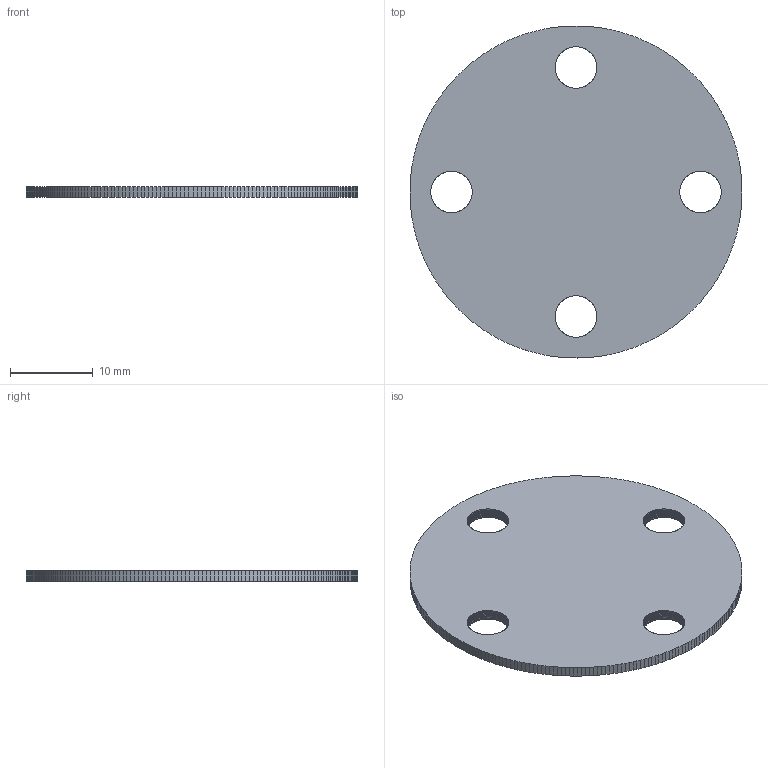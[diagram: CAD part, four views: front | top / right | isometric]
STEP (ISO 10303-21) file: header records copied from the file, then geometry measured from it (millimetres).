
FILE_DESCRIPTION(('Open CASCADE Model'),'2;1');
FILE_NAME('Open CASCADE Shape Model','2026-10-26T18:31:35',('Author'),( 'Open CASCADE'),'Open CASCADE STEP processor 7.9','Open CASCADE 7.9' ,'Unknown');
FILE_SCHEMA(('AUTOMOTIVE_DESIGN { 1 0 10303 214 1 1 1 1 }'));
Products named in the file (1): Open CASCADE STEP translator 7.9 1
Bounding box: 40 x 40 x 1.25 mm (x, y, z)
Volume: 1472.5 mm3; surface area: 2591.6 mm2
Topology: 1 solids, 1 shells, 891 faces, 2667 edges, 1778 vertices
Faces by surface type: plane 891
Entity records: 64058 total; most frequent: CARTESIAN_POINT 10671, DIRECTION 9785, LINE 8001, VECTOR 8001, ORIENTED_EDGE 5334, PCURVE 5334, DEFINITIONAL_REPRESENTATION 5334, EDGE_CURVE 2667
